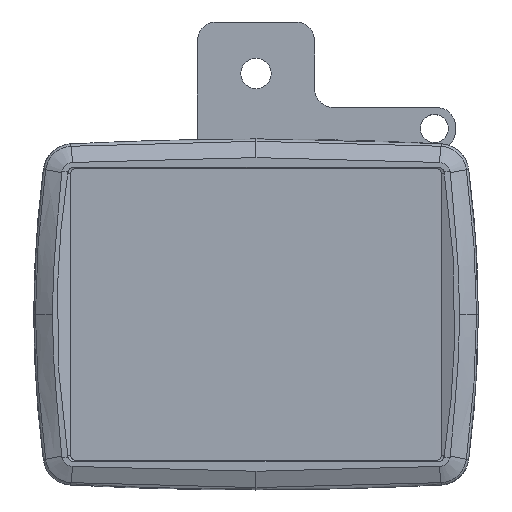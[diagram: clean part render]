
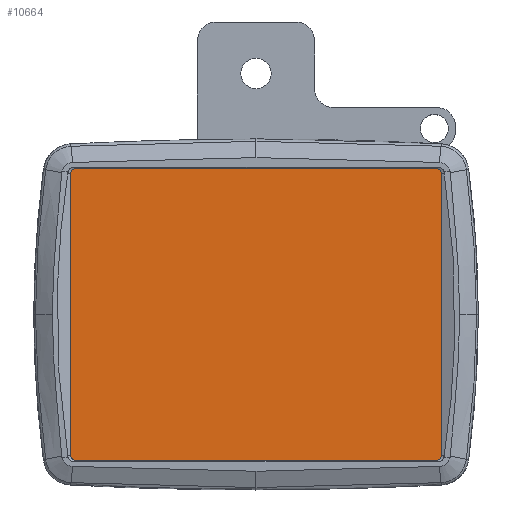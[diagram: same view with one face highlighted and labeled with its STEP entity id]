
A CAD part, top view. The second image highlights one B-rep face of the part: STEP entity #10664.
In plain terms, the highlighted planar face has unit normal (0, 0, 1).
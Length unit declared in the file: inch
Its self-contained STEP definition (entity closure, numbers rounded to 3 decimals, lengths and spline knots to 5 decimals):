
#154=B_SPLINE_CURVE_WITH_KNOTS('',3,(#15968,#15969,#15970,#15971,#15972,
#15973,#15974,#15975,#15976,#15977,#15978,#15979),.UNSPECIFIED.,.F.,.F.,
(4,2,2,2,2,4),(-0.40557,-0.31123,-0.19926,
-0.12256,-0.06318,-0.00009),
 .UNSPECIFIED.);
#155=B_SPLINE_CURVE_WITH_KNOTS('',3,(#15983,#15984,#15985,#15986,#15987,
#15988,#15989,#15990,#15991,#15992,#15993,#15994),.UNSPECIFIED.,.F.,.F.,
(4,2,2,2,2,4),(-0.40579,-0.34009,-0.27824,-0.19543,
-0.08313,-0.00028),.UNSPECIFIED.);
#156=B_SPLINE_CURVE_WITH_KNOTS('',3,(#15998,#15999,#16000,#16001,#16002,
#16003,#16004,#16005,#16006,#16007,#16008,#16009),.UNSPECIFIED.,.F.,.F.,
(4,2,2,2,2,4),(-0.40557,-0.31123,-0.19926,
-0.12256,-0.06318,-0.00009),
 .UNSPECIFIED.);
#157=B_SPLINE_CURVE_WITH_KNOTS('',3,(#16013,#16014,#16015,#16016,#16017,
#16018,#16019,#16020,#16021,#16022,#16023,#16024),.UNSPECIFIED.,.F.,.F.,
(4,2,2,2,2,4),(-0.40579,-0.34009,-0.27824,
-0.19543,-0.08313,-0.00028),
 .UNSPECIFIED.);
#1249=LINE('',#15981,#1870);
#1250=LINE('',#15996,#1871);
#1251=LINE('',#16011,#1872);
#1252=LINE('',#16025,#1873);
#1870=VECTOR('',#12792,4.71657);
#1871=VECTOR('',#12793,6.04328);
#1872=VECTOR('',#12794,4.71657);
#1873=VECTOR('',#12795,6.04328);
#2453=PLANE('',#11364);
#2761=FACE_OUTER_BOUND('',#3425,.T.);
#3425=EDGE_LOOP('',(#7559,#7560,#7561,#7562,#7563,#7564,#7565,#7566));
#4861=VERTEX_POINT('',#15966);
#4862=VERTEX_POINT('',#15967);
#4863=VERTEX_POINT('',#15980);
#4864=VERTEX_POINT('',#15982);
#4865=VERTEX_POINT('',#15995);
#4866=VERTEX_POINT('',#15997);
#4867=VERTEX_POINT('',#16010);
#4868=VERTEX_POINT('',#16012);
#5909=EDGE_CURVE('',#4861,#4862,#154,.T.);
#5910=EDGE_CURVE('',#4862,#4863,#1249,.T.);
#5911=EDGE_CURVE('',#4863,#4864,#155,.T.);
#5912=EDGE_CURVE('',#4864,#4865,#1250,.T.);
#5913=EDGE_CURVE('',#4865,#4866,#156,.T.);
#5914=EDGE_CURVE('',#4866,#4867,#1251,.T.);
#5915=EDGE_CURVE('',#4867,#4868,#157,.T.);
#5916=EDGE_CURVE('',#4868,#4861,#1252,.T.);
#7559=ORIENTED_EDGE('',*,*,#5909,.T.);
#7560=ORIENTED_EDGE('',*,*,#5910,.T.);
#7561=ORIENTED_EDGE('',*,*,#5911,.T.);
#7562=ORIENTED_EDGE('',*,*,#5912,.T.);
#7563=ORIENTED_EDGE('',*,*,#5913,.T.);
#7564=ORIENTED_EDGE('',*,*,#5914,.T.);
#7565=ORIENTED_EDGE('',*,*,#5915,.T.);
#7566=ORIENTED_EDGE('',*,*,#5916,.T.);
#10664=ADVANCED_FACE('',(#2761),#2453,.T.);
#11364=AXIS2_PLACEMENT_3D('',#15965,#12790,#12791);
#12790=DIRECTION('center_axis',(0.,0.,
1.));
#12791=DIRECTION('ref_axis',(0.,-1.,0.));
#12792=DIRECTION('',(0.,-1.,0.));
#12793=DIRECTION('',(1.,0.,0.));
#12794=DIRECTION('',(0.,1.,0.));
#12795=DIRECTION('',(-1.,0.,0.));
#15965=CARTESIAN_POINT('Origin',(-3.24488,-2.55496,0.33465));
#15966=CARTESIAN_POINT('',(-3.02165,2.45646,0.33481));
#15967=CARTESIAN_POINT('',(-3.12013,2.35828,0.33465));
#15968=CARTESIAN_POINT('Ctrl Pts',(-3.02162,2.45615,0.33465));
#15969=CARTESIAN_POINT('Ctrl Pts',(-3.03282,2.45575,0.33465));
#15970=CARTESIAN_POINT('Ctrl Pts',(-3.04412,2.45341,0.33465));
#15971=CARTESIAN_POINT('Ctrl Pts',(-3.06723,2.44514,0.33465));
#15972=CARTESIAN_POINT('Ctrl Pts',(-3.08021,2.4381,0.33465));
#15973=CARTESIAN_POINT('Ctrl Pts',(-3.09849,2.4214,0.33465));
#15974=CARTESIAN_POINT('Ctrl Pts',(-3.10466,2.4135,0.33465));
#15975=CARTESIAN_POINT('Ctrl Pts',(-3.11305,2.39775,0.33465));
#15976=CARTESIAN_POINT('Ctrl Pts',(-3.11576,2.39045,0.33465));
#15977=CARTESIAN_POINT('Ctrl Pts',(-3.11946,2.37482,0.33465));
#15978=CARTESIAN_POINT('Ctrl Pts',(-3.12029,2.36656,0.33465));
#15979=CARTESIAN_POINT('Ctrl Pts',(-3.12017,2.35828,0.33465));
#15980=CARTESIAN_POINT('',(-3.12013,-2.35828,0.33465));
#15981=CARTESIAN_POINT('',(-3.12008,-2.51483,0.33465));
#15982=CARTESIAN_POINT('',(-3.02165,-2.45655,0.33475));
#15983=CARTESIAN_POINT('Ctrl Pts',(-3.12018,-2.35828,
0.33465));
#15984=CARTESIAN_POINT('Ctrl Pts',(-3.1203,-2.36645,
0.33465));
#15985=CARTESIAN_POINT('Ctrl Pts',(-3.11949,-2.37458,
0.33465));
#15986=CARTESIAN_POINT('Ctrl Pts',(-3.11589,-2.39001,
0.33465));
#15987=CARTESIAN_POINT('Ctrl Pts',(-3.11324,-2.39721,
0.33465));
#15988=CARTESIAN_POINT('Ctrl Pts',(-3.10486,-2.4131,
0.33465));
#15989=CARTESIAN_POINT('Ctrl Pts',(-3.09857,-2.42116,
0.33465));
#15990=CARTESIAN_POINT('Ctrl Pts',(-3.08062,-2.43757,
0.33465));
#15991=CARTESIAN_POINT('Ctrl Pts',(-3.06762,-2.44518,0.33465));
#15992=CARTESIAN_POINT('Ctrl Pts',(-3.04345,-2.45376,
0.33465));
#15993=CARTESIAN_POINT('Ctrl Pts',(-3.03251,-2.45602,
0.33465));
#15994=CARTESIAN_POINT('Ctrl Pts',(-3.02164,-2.45636,0.33465));
#15995=CARTESIAN_POINT('',(3.02165,-2.45646,0.33481));
#15996=CARTESIAN_POINT('',(-3.2155,-2.45669,0.33465));
#15997=CARTESIAN_POINT('',(3.12013,-2.35828,0.33465));
#15998=CARTESIAN_POINT('Ctrl Pts',(3.02162,-2.45615,0.33465));
#15999=CARTESIAN_POINT('Ctrl Pts',(3.03282,-2.45575,0.33465));
#16000=CARTESIAN_POINT('Ctrl Pts',(3.04412,-2.45341,0.33465));
#16001=CARTESIAN_POINT('Ctrl Pts',(3.06723,-2.44514,0.33465));
#16002=CARTESIAN_POINT('Ctrl Pts',(3.08021,-2.4381,0.33465));
#16003=CARTESIAN_POINT('Ctrl Pts',(3.09849,-2.4214,0.33465));
#16004=CARTESIAN_POINT('Ctrl Pts',(3.10466,-2.4135,0.33465));
#16005=CARTESIAN_POINT('Ctrl Pts',(3.11305,-2.39775,0.33465));
#16006=CARTESIAN_POINT('Ctrl Pts',(3.11576,-2.39045,0.33465));
#16007=CARTESIAN_POINT('Ctrl Pts',(3.11946,-2.37482,0.33465));
#16008=CARTESIAN_POINT('Ctrl Pts',(3.12029,-2.36656,0.33465));
#16009=CARTESIAN_POINT('Ctrl Pts',(3.12017,-2.35828,0.33465));
#16010=CARTESIAN_POINT('',(3.12013,2.35828,0.33465));
#16011=CARTESIAN_POINT('',(3.12008,-2.51483,0.33465));
#16012=CARTESIAN_POINT('',(3.02165,2.45655,0.33475));
#16013=CARTESIAN_POINT('Ctrl Pts',(3.12018,2.35828,0.33465));
#16014=CARTESIAN_POINT('Ctrl Pts',(3.1203,2.36645,0.33465));
#16015=CARTESIAN_POINT('Ctrl Pts',(3.11949,2.37458,0.33465));
#16016=CARTESIAN_POINT('Ctrl Pts',(3.11589,2.39001,0.33465));
#16017=CARTESIAN_POINT('Ctrl Pts',(3.11324,2.39721,0.33465));
#16018=CARTESIAN_POINT('Ctrl Pts',(3.10486,2.4131,0.33465));
#16019=CARTESIAN_POINT('Ctrl Pts',(3.09857,2.42116,0.33465));
#16020=CARTESIAN_POINT('Ctrl Pts',(3.08062,2.43757,0.33465));
#16021=CARTESIAN_POINT('Ctrl Pts',(3.06762,2.44518,0.33465));
#16022=CARTESIAN_POINT('Ctrl Pts',(3.04345,2.45376,0.33465));
#16023=CARTESIAN_POINT('Ctrl Pts',(3.03251,2.45602,0.33465));
#16024=CARTESIAN_POINT('Ctrl Pts',(3.02164,2.45636,0.33465));
#16025=CARTESIAN_POINT('',(-3.2155,2.45669,0.33465));
